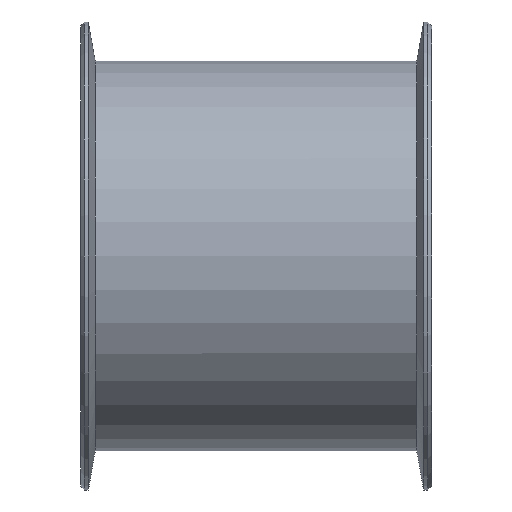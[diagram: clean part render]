
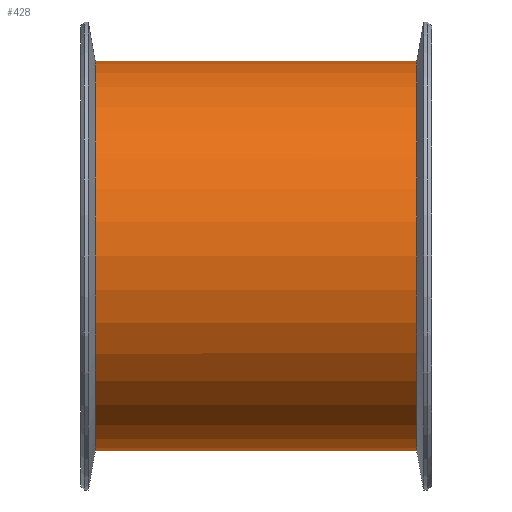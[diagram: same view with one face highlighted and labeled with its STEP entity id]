
A CAD part, front view. The second image highlights one B-rep face of the part: STEP entity #428.
In plain terms, the highlighted cylindrical face has radius 50 mm (diameter 100 mm), a partial arc.
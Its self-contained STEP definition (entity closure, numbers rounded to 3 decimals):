
#3 = FACE_OUTER_BOUND ( 'NONE', #87, .T. ) ;
#5 = CARTESIAN_POINT ( 'NONE',  ( 3.763, 0., -50. ) ) ;
#76 = DIRECTION ( 'NONE',  ( -1., 0., 0. ) ) ;
#87 = EDGE_LOOP ( 'NONE', ( #232, #279, #581, #240 ) ) ;
#112 = CIRCLE ( 'NONE', #386, 50. ) ;
#162 = VECTOR ( 'NONE', #258, 1000. ) ;
#182 = EDGE_CURVE ( 'NONE', #490, #891, #807, .T. ) ;
#222 = DIRECTION ( 'NONE',  ( 0., 0., 1. ) ) ;
#226 = DIRECTION ( 'NONE',  ( 1., 0., 0. ) ) ;
#227 = CARTESIAN_POINT ( 'NONE',  ( 0., 0., 0. ) ) ;
#229 = DIRECTION ( 'NONE',  ( 0., 0., 1. ) ) ;
#232 = ORIENTED_EDGE ( 'NONE', *, *, #182, .F. ) ;
#233 = AXIS2_PLACEMENT_3D ( 'NONE', #410, #76, #222 ) ;
#240 = ORIENTED_EDGE ( 'NONE', *, *, #458, .F. ) ;
#258 = DIRECTION ( 'NONE',  ( -1., 0., 0. ) ) ;
#279 = ORIENTED_EDGE ( 'NONE', *, *, #796, .F. ) ;
#334 = DIRECTION ( 'NONE',  ( -1., 0., 0. ) ) ;
#348 = CARTESIAN_POINT ( 'NONE',  ( 86.237, 0., 0. ) ) ;
#381 = CARTESIAN_POINT ( 'NONE',  ( 0., 0., 50. ) ) ;
#386 = AXIS2_PLACEMENT_3D ( 'NONE', #348, #226, #553 ) ;
#410 = CARTESIAN_POINT ( 'NONE',  ( 3.763, 0., 0. ) ) ;
#428 = ADVANCED_FACE ( 'NONE', ( #3 ), #703, .T. ) ;
#458 = EDGE_CURVE ( 'NONE', #891, #905, #659, .T. ) ;
#490 = VERTEX_POINT ( 'NONE', #753 ) ;
#514 = EDGE_CURVE ( 'NONE', #824, #905, #714, .T. ) ;
#553 = DIRECTION ( 'NONE',  ( 0., 0., -1. ) ) ;
#581 = ORIENTED_EDGE ( 'NONE', *, *, #514, .T. ) ;
#624 = VECTOR ( 'NONE', #334, 1000. ) ;
#636 = CARTESIAN_POINT ( 'NONE',  ( 3.763, 0., 50. ) ) ;
#659 = CIRCLE ( 'NONE', #233, 50. ) ;
#689 = CARTESIAN_POINT ( 'NONE',  ( 86.237, 0., 50. ) ) ;
#703 = CYLINDRICAL_SURFACE ( 'NONE', #830, 50. ) ;
#714 = LINE ( 'NONE', #381, #162 ) ;
#753 = CARTESIAN_POINT ( 'NONE',  ( 86.237, 0., -50. ) ) ;
#757 = DIRECTION ( 'NONE',  ( -1., 0., 0. ) ) ;
#796 = EDGE_CURVE ( 'NONE', #824, #490, #112, .T. ) ;
#807 = LINE ( 'NONE', #893, #624 ) ;
#824 = VERTEX_POINT ( 'NONE', #689 ) ;
#830 = AXIS2_PLACEMENT_3D ( 'NONE', #227, #757, #229 ) ;
#891 = VERTEX_POINT ( 'NONE', #5 ) ;
#893 = CARTESIAN_POINT ( 'NONE',  ( 0., 0., -50. ) ) ;
#905 = VERTEX_POINT ( 'NONE', #636 ) ;
